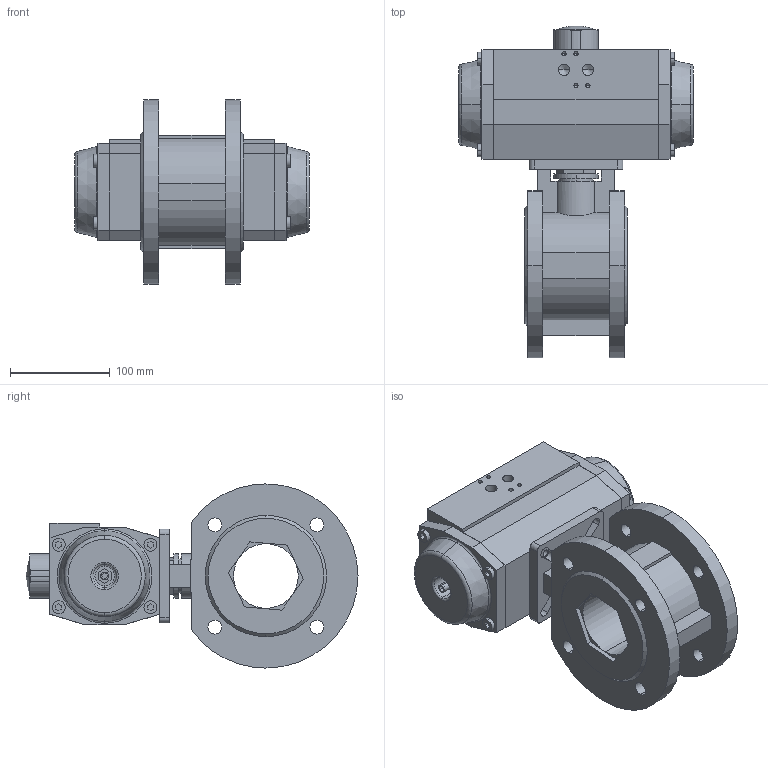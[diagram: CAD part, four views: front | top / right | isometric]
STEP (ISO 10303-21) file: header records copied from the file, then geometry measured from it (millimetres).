
FILE_DESCRIPTION (( 'STEP AP214' ), '1' );
FILE_NAME ('S15D DN65 AP3.5.STEP', '2012-04-24T08:15:47', ( 'Jan' ), ( '' ), 'SwSTEP 2.0', 'SolidWorks 2011', '' );
FILE_SCHEMA (( 'AUTOMOTIVE_DESIGN' ));
Length unit declared in the file: millimetre
Products named in the file (3): S15D DN65 AP3.5; S15D KK DN65 PN16; AP3.5_Default<As Machined>
Assembly tree (2 placements, depth 2):
  S15D DN65 AP3.5
    AP3.5_Default<As Machined>
    S15D KK DN65 PN16
Bounding box: 236 x 333.49 x 185 mm (x, y, z)
Volume: 3563961.9 mm3; surface area: 306816.7 mm2
Topology: 9 solids, 9 shells, 412 faces, 1041 edges, 664 vertices
Faces by surface type: plane 234, cylinder 122, cone 38, torus 16, sphere 2
Entity records: 13604 total; most frequent: CARTESIAN_POINT 2163, DIRECTION 2143, ORIENTED_EDGE 2022, EDGE_CURVE 1011, AXIS2_PLACEMENT_3D 718, VECTOR 707, LINE 707, VERTEX_POINT 664
